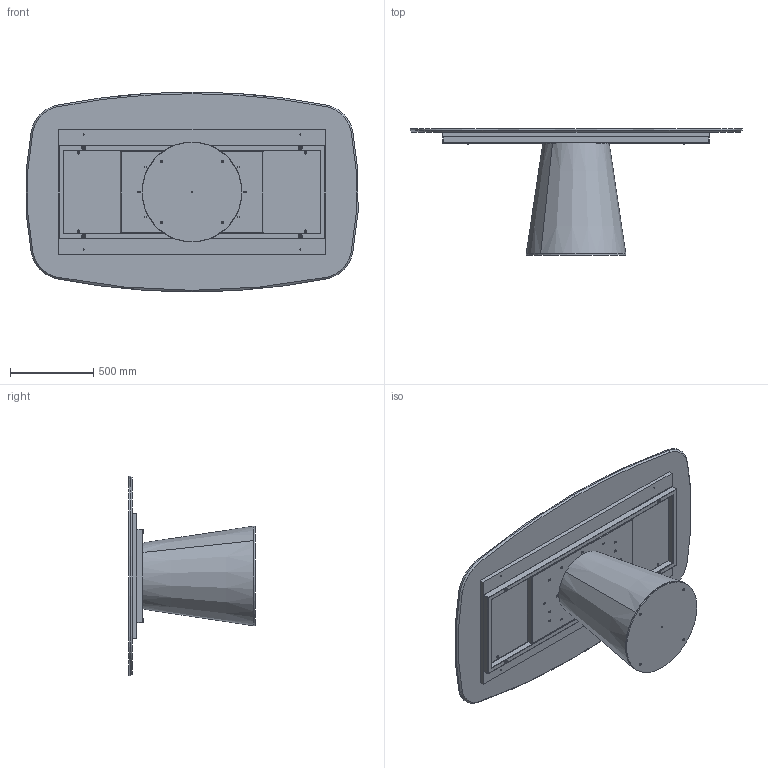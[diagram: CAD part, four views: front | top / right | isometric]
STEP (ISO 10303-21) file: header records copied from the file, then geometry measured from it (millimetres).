
FILE_DESCRIPTION (( 'STEP AP203' ), '1' );
FILE_NAME ('TO41M_Teo_200x120_Marble Shaped.STEP', '2024-08-02T09:29:48', ( '' ), ( '' ), 'SwSTEP 2.0', 'SolidWorks 2022', '' );
FILE_SCHEMA (( 'CONFIG_CONTROL_DESIGN' ));
Length unit declared in the file: millimetre
Products named in the file (15): TTAV01_02-05-VASSOIO IRRIGIDIMENTO TELAIO UNIVERSALE; TRUXXXXXX-00-NOBILITATO GR CON SUPP TRUCIOLARE SP. 25_TRU00004_1600x720; BASE TED LEGNO CON ZAVORRA; M4XMXX-00-Piani Sagomati in marmo_2000x1200; rondella M8_8X24; TTAV01_01-05-TELAIO UNIVERSALE X TAVOLI 180 240cm; M4X-00-Piani Sagomati in marmo_2000 x 1200; TEO000000PIA-00-TEO PIASTRA DI BASE IN METALLO GREZZO; TO41M_Teo_200x120_Marble Shaped; M8xXXmm_hex_M8X20mm; TTAV01-05-TELAIO UNIVERSALE X TAVOLI 180 240cm; COLLO TELAIO UNIVERSALE TTAV01 CON FERRAMENTA_MTG TOP LEGNO-MARMO-KING; M8xXXmm_M8x55mm; TEO0000-00-TEO BASE LEGNO IMPIALLACCIATA LEVIGATO PRONTA X VERNICE; M8xXXmm_M8x20mm
Assembly tree (30 placements, depth 4):
  TO41M_Teo_200x120_Marble Shaped
    BASE TED LEGNO CON ZAVORRA
      TEO000000PIA-00-TEO PIASTRA DI BASE IN METALLO GREZZO
      TEO0000-00-TEO BASE LEGNO IMPIALLACCIATA LEVIGATO PRONTA X VERNICE
      M8xXXmm_hex_M8X20mm  x4
    COLLO TELAIO UNIVERSALE TTAV01 CON FERRAMENTA_MTG TOP LEGNO-MARMO-KING
      TTAV01-05-TELAIO UNIVERSALE X TAVOLI 180 240cm
        TTAV01_02-05-VASSOIO IRRIGIDIMENTO TELAIO UNIVERSALE
        TTAV01_01-05-TELAIO UNIVERSALE X TAVOLI 180 240cm
      rondella M8_8X24  x4
      M8xXXmm_M8x55mm  x4
    rondella M8_8X24  x4
    M8xXXmm_M8x20mm  x4
    M4XMXX-00-Piani Sagomati in marmo_2000x1200
      M4X-00-Piani Sagomati in marmo_2000 x 1200
      TRUXXXXXX-00-NOBILITATO GR CON SUPP TRUCIOLARE SP. 25_TRU00004_1600x720
Bounding box: 1992.14 x 758.19 x 1200 mm (x, y, z)
Volume: 105059751.4 mm3; surface area: 12374521.7 mm2
Topology: 26 solids, 26 shells, 908 faces, 2102 edges, 1215 vertices
Faces by surface type: plane 352, cylinder 273, cone 171, torus 104, sphere 8
Entity records: 17203 total; most frequent: DIRECTION 2776, CARTESIAN_POINT 2689, ORIENTED_EDGE 2452, EDGE_CURVE 1226, AXIS2_PLACEMENT_3D 1049, VERTEX_POINT 758, LINE 678, VECTOR 678
